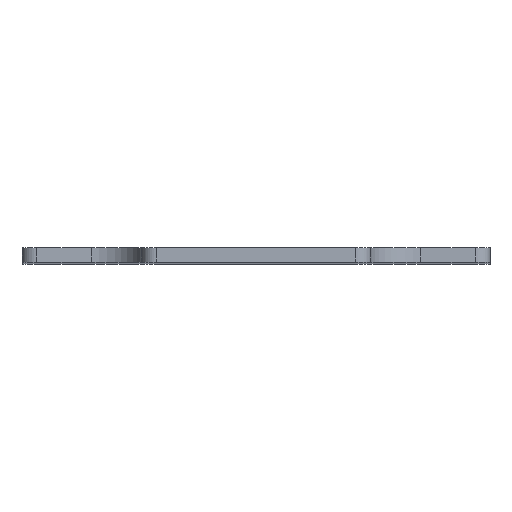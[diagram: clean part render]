
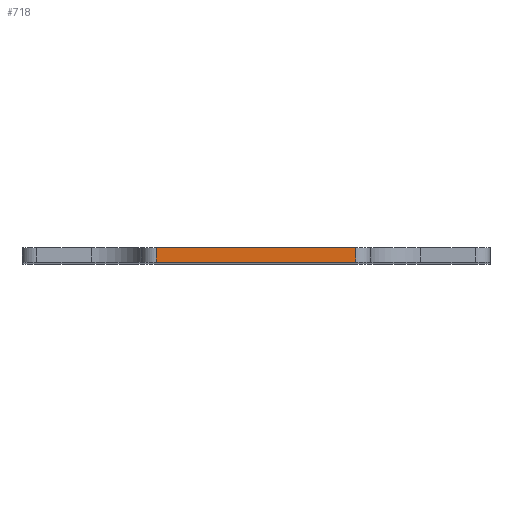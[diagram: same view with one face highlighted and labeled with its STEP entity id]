
A CAD part, top view. The second image highlights one B-rep face of the part: STEP entity #718.
In plain terms, the highlighted planar face has unit normal (0, 0, 1).
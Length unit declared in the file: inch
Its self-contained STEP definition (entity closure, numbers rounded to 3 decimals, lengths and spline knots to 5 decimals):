
#4 = ORIENTED_EDGE ( 'NONE', *, *, #92, .F. ) ;
#7 = LINE ( 'NONE', #892, #9 ) ;
#9 = VECTOR ( 'NONE', #893, 39.37008 ) ;
#20 = LINE ( 'NONE', #924, #28 ) ;
#28 = VECTOR ( 'NONE', #927, 39.37008 ) ;
#92 = EDGE_CURVE ( 'NONE', #843, #862, #7, .T. ) ;
#105 = EDGE_CURVE ( 'NONE', #832, #862, #20, .T. ) ;
#132 = EDGE_CURVE ( 'NONE', #845, #843, #160, .T. ) ;
#136 = EDGE_CURVE ( 'NONE', #845, #832, #159, .T. ) ;
#158 = VECTOR ( 'NONE', #479, 39.37008 ) ;
#159 = LINE ( 'NONE', #483, #158 ) ;
#160 = LINE ( 'NONE', #937, #162 ) ;
#162 = VECTOR ( 'NONE', #504, 39.37008 ) ;
#319 = EDGE_LOOP ( 'NONE', ( #630, #771, #770, #4 ) ) ;
#356 = CARTESIAN_POINT ( 'NONE',  ( 0.53645, 0., 3.52362 ) ) ;
#374 = CARTESIAN_POINT ( 'NONE',  ( -0.53645, 0.07874, 3.52362 ) ) ;
#377 = CARTESIAN_POINT ( 'NONE',  ( 0.53645, 0.07874, 3.52362 ) ) ;
#390 = CARTESIAN_POINT ( 'NONE',  ( -0.53645, 0., 3.52362 ) ) ;
#479 = DIRECTION ( 'NONE',  ( 0., -1., 0. ) ) ;
#483 = CARTESIAN_POINT ( 'NONE',  ( -0.53645, 0., 3.52362 ) ) ;
#504 = DIRECTION ( 'NONE',  ( 1., 0., 0. ) ) ;
#525 = DIRECTION ( 'NONE',  ( 1., 0., 0. ) ) ;
#527 = DIRECTION ( 'NONE',  ( 0., 0., 1. ) ) ;
#530 = PLANE ( 'NONE',  #619 ) ;
#536 = CARTESIAN_POINT ( 'NONE',  ( -1.25984, 0., 3.52362 ) ) ;
#619 = AXIS2_PLACEMENT_3D ( 'NONE', #536, #527, #525 ) ;
#630 = ORIENTED_EDGE ( 'NONE', *, *, #132, .F. ) ;
#718 = ADVANCED_FACE ( 'NONE', ( #744 ), #530, .T. ) ;
#744 = FACE_OUTER_BOUND ( 'NONE', #319, .T. ) ;
#770 = ORIENTED_EDGE ( 'NONE', *, *, #105, .T. ) ;
#771 = ORIENTED_EDGE ( 'NONE', *, *, #136, .T. ) ;
#832 = VERTEX_POINT ( 'NONE', #390 ) ;
#843 = VERTEX_POINT ( 'NONE', #377 ) ;
#845 = VERTEX_POINT ( 'NONE', #374 ) ;
#862 = VERTEX_POINT ( 'NONE', #356 ) ;
#892 = CARTESIAN_POINT ( 'NONE',  ( 0.53645, -0.10265, 3.52362 ) ) ;
#893 = DIRECTION ( 'NONE',  ( 0., -1., 0. ) ) ;
#924 = CARTESIAN_POINT ( 'NONE',  ( -1.25984, 0., 3.52362 ) ) ;
#927 = DIRECTION ( 'NONE',  ( 1., 0., 0. ) ) ;
#937 = CARTESIAN_POINT ( 'NONE',  ( 0., 0.07874, 3.52362 ) ) ;
